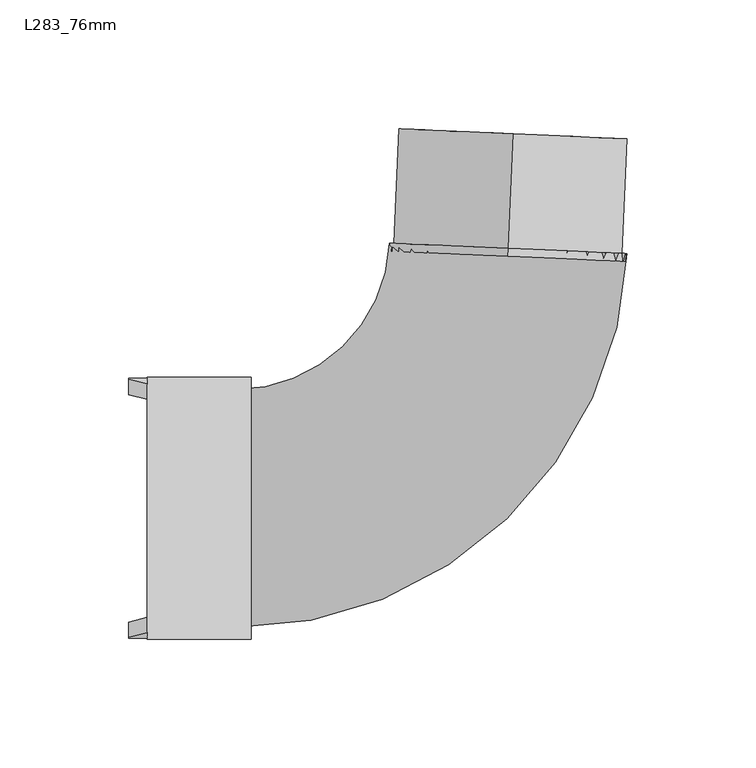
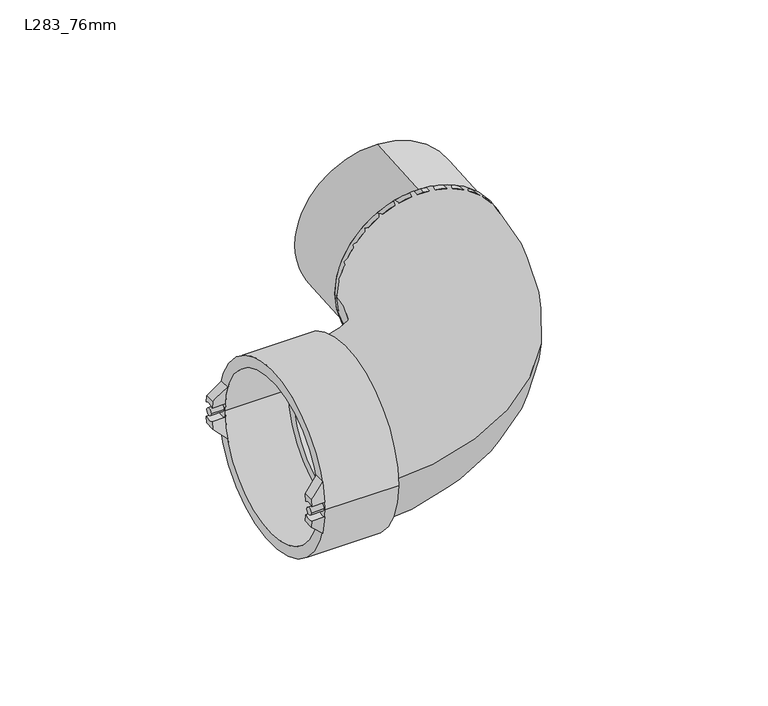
"""IFC4 building model written with IfcOpenShell, lengths in millimetres: pipe fitting geometry, Durapipe_PipeFitting_VulcatheneEnfusion_SingleSocketLongSweepBend_L28 : L283_76mm."""

from ifc_helpers import new_model, si_unit, point, frame, frame_2d, origin, place, context, project, spatial, polyline, circle_curve, ellipse_curve, trimmed, segment, composite_curve, outline, extrude, source, transform, mapped, element, save
from ifc_brep_helpers import plane_surface, cylinder_surface, revolved_surface, advanced_brep


def l283_76mm_a17f63d7(model_context):
    return source(origin(), model_context, "Body", "SolidModel", [
        advanced_brep(
        [(-142.9942788, 44.6762827, -3.9436356), (-142.9942788, 50.4762827, -4.1913461), (-142.9942788, 50.0237833, -7.94), (-142.9942788, 44.1415779, -7.94), (-135.8942788, 48.3779133, -15.0), (-135.8942788, 50.4762827, -4.1913461), (-135.8942788, 44.6762827, -3.9436356), (-135.8942788, 42.2672746, -15.0)],
        [
            (0, 1, circle_curve(frame((-142.9942788, 47.75, 0.0), z_axis=(1.0, 0.0, 0.0), x_axis=(0.0, -1.0, 0.0)), 5.0)),
            (1, 2, circle_curve(frame((-142.9942788, 0.0, 0.0), z_axis=(-1.0, 0.0, 0.0), x_axis=(0.0, -1.0, 0.0)), 50.65)),
            (2, 3),
            (3, 0, circle_curve(frame((-142.9942788, 0.0, 0.0), z_axis=(1.0, 0.0, 0.0), x_axis=(0.0, -1.0, 0.0)), 44.85)),
            (4, 5, circle_curve(frame((-135.8942788, 0.0, 0.0), z_axis=(1.0, 0.0, 0.0), x_axis=(0.0, -1.0, 0.0)), 50.65)),
            (5, 6, circle_curve(frame((-135.8942788, 47.75, 0.0), z_axis=(-1.0, 0.0, 0.0), x_axis=(0.0, -1.0, 0.0)), 5.0)),
            (6, 7, circle_curve(frame((-135.8942788, 0.0, 0.0), z_axis=(-1.0, 0.0, 0.0), x_axis=(0.0, -1.0, 0.0)), 44.85)),
            (7, 4),
            (6, 0),
            (3, 7, ellipse_curve(frame((-150.9792646, 0.0, 0.0), z_axis=(-0.7051064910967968, 0.0, -0.7091014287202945), x_axis=(0.7091014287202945, 0.0, -0.7051064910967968)), 63.6074133, 44.85)),
            (4, 2, ellipse_curve(frame((-150.9792646, 0.0, 0.0), z_axis=(0.7051064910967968, 0.0, 0.7091014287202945), x_axis=(-0.7091014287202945, 0.0, 0.7051064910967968)), 71.8331212, 50.65)),
            (1, 5),
        ],
        [
            plane_surface(frame((-142.9942788, 48.3779133, -15.0), z_axis=(-1.0, 0.0, 0.0), x_axis=(0.0, -1.0, 0.0))),
            plane_surface(frame((-135.8942788, 48.3779133, -15.0), z_axis=(1.0, 0.0, 0.0), x_axis=(0.0, 1.0, 0.0))),
            revolved_surface(polyline([(-105.87515695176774, -44.85, 0.0), (-196.08337224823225, -44.85, 0.0)]), (-135.8942788, 0.0, 0.0), (1.0, 0.0, 0.0)),
            cylinder_surface(frame((-135.8942788, 0.0, 0.0), z_axis=(-1.0, 0.0, 0.0), x_axis=(0.0, -1.0, 0.0)), 50.65),
            revolved_surface(polyline([(-142.9942788, 42.75, 0.0), (-135.8942788, 42.75, 0.0)]), (-135.8942788, 47.75, 0.0), (-1.0, 0.0, 0.0)),
            plane_surface(frame((-135.8942788, -104.876707, -15.0), z_axis=(-0.7051064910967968, 0.0, -0.7091014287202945), x_axis=(0.0, 1.0, 0.0))),
        ],
        [
            (0, [[1, 2, 3, 4]]),
            (1, [[5, 6, 7, 8]]),
            (2, [[-7, 9, -4, 10]]),
            (3, [[-5, 11, -2, 12]]),
            (4, [[-1, -9, -6, -12]]),
            (5, [[-3, -11, -8, -10]]),
        ],
    ),
        advanced_brep(
        [(-142.9942788, 50.4762827, 4.1913461), (-142.9942788, 44.6762827, 3.9436356), (-142.9942788, 44.1415779, 7.94), (-142.9942788, 50.0237833, 7.94), (-135.8942788, 50.4762827, 4.1913461), (-135.8942788, 48.3779133, 15.0), (-135.8942788, 42.2672746, 15.0), (-135.8942788, 44.6762827, 3.9436356)],
        [
            (0, 1, circle_curve(frame((-142.9942788, 47.75, 0.0), z_axis=(1.0, 0.0, 0.0), x_axis=(0.0, -1.0, 0.0)), 5.0)),
            (1, 2, circle_curve(frame((-142.9942788, 0.0, 0.0), z_axis=(1.0, 0.0, 0.0), x_axis=(0.0, -1.0, 0.0)), 44.85)),
            (2, 3),
            (3, 0, circle_curve(frame((-142.9942788, 0.0, 0.0), z_axis=(-1.0, 0.0, 0.0), x_axis=(0.0, -1.0, 0.0)), 50.65)),
            (4, 5, circle_curve(frame((-135.8942788, 0.0, 0.0), z_axis=(1.0, 0.0, 0.0), x_axis=(0.0, -1.0, 0.0)), 50.65)),
            (5, 6),
            (6, 7, circle_curve(frame((-135.8942788, 0.0, 0.0), z_axis=(-1.0, 0.0, 0.0), x_axis=(0.0, -1.0, 0.0)), 44.85)),
            (7, 4, circle_curve(frame((-135.8942788, 47.75, 0.0), z_axis=(-1.0, 0.0, 0.0), x_axis=(0.0, -1.0, 0.0)), 5.0)),
            (6, 2, ellipse_curve(frame((-150.9792646, 0.0, 0.0), z_axis=(-0.7051064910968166, 0.0, 0.7091014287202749), x_axis=(0.7091014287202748, 0.0, 0.7051064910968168)), 63.6074133, 44.85)),
            (1, 7),
            (4, 0),
            (3, 5, ellipse_curve(frame((-150.9792646, 0.0, 0.0), z_axis=(0.7051064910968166, 0.0, -0.7091014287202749), x_axis=(-0.7091014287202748, 0.0, -0.7051064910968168)), 71.8331212, 50.65)),
        ],
        [
            plane_surface(frame((-142.9942788, 48.3779133, -15.0), z_axis=(-1.0, 0.0, 0.0), x_axis=(0.0, -1.0, 0.0))),
            plane_surface(frame((-135.8942788, 48.3779133, -15.0), z_axis=(1.0, 0.0, 0.0), x_axis=(0.0, 1.0, 0.0))),
            revolved_surface(polyline([(-105.87515695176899, -44.85, 0.0), (-196.083372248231, -44.85, 0.0)]), (-135.8942788, 0.0, 0.0), (1.0, 0.0, 0.0)),
            cylinder_surface(frame((-135.8942788, 0.0, 0.0), z_axis=(-1.0, 0.0, 0.0), x_axis=(0.0, -1.0, 0.0)), 50.65),
            revolved_surface(polyline([(-142.9942788, 42.75, 0.0), (-135.8942788, 42.75, 0.0)]), (-135.8942788, 47.75, 0.0), (-1.0, 0.0, 0.0)),
            plane_surface(frame((-142.9942788, -104.876707, 7.94), z_axis=(-0.7051064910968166, 0.0, 0.7091014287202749), x_axis=(0.0, 1.0, 0.0))),
        ],
        [
            (0, [[1, 2, 3, 4]]),
            (1, [[5, 6, 7, 8]]),
            (2, [[-7, 9, -2, 10]]),
            (3, [[-5, 11, -4, 12]]),
            (4, [[-1, -11, -8, -10]]),
            (5, [[-3, -9, -6, -12]]),
        ],
    ),
        advanced_brep(
        [(-142.9942788, -50.4762827, -4.1913461), (-142.9942788, -44.6762827, -3.9436356), (-142.9942788, -44.1415779, -7.94), (-142.9942788, -50.0237833, -7.94), (-135.8942788, -50.4762827, -4.1913461), (-135.8942788, -48.3779133, -15.0), (-135.8942788, -42.2672746, -15.0), (-135.8942788, -44.6762827, -3.9436356)],
        [
            (0, 1, circle_curve(frame((-142.9942788, -47.75, 0.0), z_axis=(1.0, 0.0, 0.0), x_axis=(0.0, -1.0, 0.0)), 5.0)),
            (1, 2, circle_curve(frame((-142.9942788, 0.0, 0.0), z_axis=(1.0, 0.0, 0.0), x_axis=(0.0, -1.0, 0.0)), 44.85)),
            (2, 3),
            (3, 0, circle_curve(frame((-142.9942788, 0.0, 0.0), z_axis=(-1.0, 0.0, 0.0), x_axis=(0.0, -1.0, 0.0)), 50.65)),
            (4, 5, circle_curve(frame((-135.8942788, 0.0, 0.0), z_axis=(1.0, 0.0, 0.0), x_axis=(0.0, -1.0, 0.0)), 50.65)),
            (5, 6),
            (6, 7, circle_curve(frame((-135.8942788, 0.0, 0.0), z_axis=(-1.0, 0.0, 0.0), x_axis=(0.0, -1.0, 0.0)), 44.85)),
            (7, 4, circle_curve(frame((-135.8942788, -47.75, 0.0), z_axis=(-1.0, 0.0, 0.0), x_axis=(0.0, -1.0, 0.0)), 5.0)),
            (6, 2, ellipse_curve(frame((-150.9792646, 0.0, 0.0), z_axis=(-0.7051064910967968, 0.0, -0.7091014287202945), x_axis=(0.7091014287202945, 0.0, -0.7051064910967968)), 63.6074133, 44.85)),
            (1, 7),
            (4, 0),
            (3, 5, ellipse_curve(frame((-150.9792646, 0.0, 0.0), z_axis=(0.7051064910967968, 0.0, 0.7091014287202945), x_axis=(-0.7091014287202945, 0.0, 0.7051064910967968)), 71.8331212, 50.65)),
        ],
        [
            plane_surface(frame((-142.9942788, 48.3779133, -15.0), z_axis=(-1.0, 0.0, 0.0), x_axis=(0.0, -1.0, 0.0))),
            plane_surface(frame((-135.8942788, 48.3779133, -15.0), z_axis=(1.0, 0.0, 0.0), x_axis=(0.0, 1.0, 0.0))),
            revolved_surface(polyline([(-105.87515695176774, -44.85, 0.0), (-196.08337224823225, -44.85, 0.0)]), (-135.8942788, 0.0, 0.0), (1.0, 0.0, 0.0)),
            cylinder_surface(frame((-135.8942788, 0.0, 0.0), z_axis=(-1.0, 0.0, 0.0), x_axis=(0.0, -1.0, 0.0)), 50.65),
            revolved_surface(polyline([(-142.9942788, -52.75, 0.0), (-135.8942788, -52.75, 0.0)]), (-135.8942788, -47.75, 0.0), (-1.0, 0.0, 0.0)),
            plane_surface(frame((-135.8942788, -104.876707, -15.0), z_axis=(-0.7051064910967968, 0.0, -0.7091014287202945), x_axis=(0.0, 1.0, 0.0))),
        ],
        [
            (0, [[1, 2, 3, 4]]),
            (1, [[5, 6, 7, 8]]),
            (2, [[-7, 9, -2, 10]]),
            (3, [[-5, 11, -4, 12]]),
            (4, [[-1, -11, -8, -10]]),
            (5, [[-3, -9, -6, -12]]),
        ],
    ),
        advanced_brep(
        [(-142.9942788, -44.6762827, 3.9436356), (-142.9942788, -50.4762827, 4.1913461), (-142.9942788, -50.0237833, 7.94), (-142.9942788, -44.1415779, 7.94), (-135.8942788, -48.3779133, 15.0), (-135.8942788, -50.4762827, 4.1913461), (-135.8942788, -44.6762827, 3.9436356), (-135.8942788, -42.2672746, 15.0)],
        [
            (0, 1, circle_curve(frame((-142.9942788, -47.75, 0.0), z_axis=(1.0, 0.0, 0.0), x_axis=(0.0, -1.0, 0.0)), 5.0)),
            (1, 2, circle_curve(frame((-142.9942788, 0.0, 0.0), z_axis=(-1.0, 0.0, 0.0), x_axis=(0.0, -1.0, 0.0)), 50.65)),
            (2, 3),
            (3, 0, circle_curve(frame((-142.9942788, 0.0, 0.0), z_axis=(1.0, 0.0, 0.0), x_axis=(0.0, -1.0, 0.0)), 44.85)),
            (4, 5, circle_curve(frame((-135.8942788, 0.0, 0.0), z_axis=(1.0, 0.0, 0.0), x_axis=(0.0, -1.0, 0.0)), 50.65)),
            (5, 6, circle_curve(frame((-135.8942788, -47.75, 0.0), z_axis=(-1.0, 0.0, 0.0), x_axis=(0.0, -1.0, 0.0)), 5.0)),
            (6, 7, circle_curve(frame((-135.8942788, 0.0, 0.0), z_axis=(-1.0, 0.0, 0.0), x_axis=(0.0, -1.0, 0.0)), 44.85)),
            (7, 4),
            (6, 0),
            (3, 7, ellipse_curve(frame((-150.9792646, 0.0, 0.0), z_axis=(-0.7051064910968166, 0.0, 0.7091014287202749), x_axis=(0.7091014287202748, 0.0, 0.7051064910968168)), 63.6074133, 44.85)),
            (4, 2, ellipse_curve(frame((-150.9792646, 0.0, 0.0), z_axis=(0.7051064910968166, 0.0, -0.7091014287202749), x_axis=(-0.7091014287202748, 0.0, -0.7051064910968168)), 71.8331212, 50.65)),
            (1, 5),
        ],
        [
            plane_surface(frame((-142.9942788, 48.3779133, -15.0), z_axis=(-1.0, 0.0, 0.0), x_axis=(0.0, -1.0, 0.0))),
            plane_surface(frame((-135.8942788, 48.3779133, -15.0), z_axis=(1.0, 0.0, 0.0), x_axis=(0.0, 1.0, 0.0))),
            revolved_surface(polyline([(-105.87515695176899, -44.85, 0.0), (-196.083372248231, -44.85, 0.0)]), (-135.8942788, 0.0, 0.0), (1.0, 0.0, 0.0)),
            cylinder_surface(frame((-135.8942788, 0.0, 0.0), z_axis=(-1.0, 0.0, 0.0), x_axis=(0.0, -1.0, 0.0)), 50.65),
            revolved_surface(polyline([(-142.9942788, -52.75, 0.0), (-135.8942788, -52.75, 0.0)]), (-135.8942788, -47.75, 0.0), (-1.0, 0.0, 0.0)),
            plane_surface(frame((-142.9942788, -104.876707, 7.94), z_axis=(-0.7051064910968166, 0.0, 0.7091014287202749), x_axis=(0.0, 1.0, 0.0))),
        ],
        [
            (0, [[1, 2, 3, 4]]),
            (1, [[5, 6, 7, 8]]),
            (2, [[-7, 9, -4, 10]]),
            (3, [[-5, 11, -2, 12]]),
            (4, [[-1, -9, -6, -12]]),
            (5, [[-3, -11, -8, -10]]),
        ],
    ),
        extrude(outline(composite_curve([segment(trimmed(circle_curve(frame_2d((47.75, 0.0)), 2.0), [point((49.75, 0.0))], [point((45.75, 0.0))], False, "CARTESIAN"), True, "CONTINUOUS"), segment(trimmed(circle_curve(frame_2d((47.75, 0.0)), 2.0), [point((45.75, 0.0))], [point((49.75, 0.0))], False, "CARTESIAN"), True, "CONTINUOUS")], self_intersect=False)), frame((-142.9942788, 0.0, 0.0), z_axis=(1.0, 0.0, 0.0), x_axis=(0.0, 1.0, 0.0)), (0.0, 0.0, 1.0), 7.1),
        extrude(outline(composite_curve([segment(trimmed(circle_curve(frame_2d((-47.75, 0.0)), 2.0), [point((-45.75, 0.0))], [point((-49.75, 0.0))], False, "CARTESIAN"), True, "CONTINUOUS"), segment(trimmed(circle_curve(frame_2d((-47.75, 0.0)), 2.0), [point((-49.75, 0.0))], [point((-45.75, 0.0))], False, "CARTESIAN"), True, "CONTINUOUS")], self_intersect=False)), frame((-142.9942788, 0.0, 0.0), z_axis=(1.0, 0.0, 0.0), x_axis=(0.0, 1.0, 0.0)), (0.0, 0.0, 1.0), 7.1),
        advanced_brep(
        [(4.2700885, 97.8011051, -46.0), (4.2700885, 97.8011051, 46.0), (4.2700885, 97.8011051, 39.6), (4.2700885, 97.8011051, -39.6), (4.4053086, 100.8981546, -46.0), (4.4053086, 100.8981546, 46.0), (4.4053086, 100.8981546, -44.5), (4.4053086, 100.8981546, 44.5), (6.3463713, 145.3558005, -44.5), (6.3463713, 145.3558005, 44.5), (6.3463713, 145.3558005, -39.6), (6.3463713, 145.3558005, 39.6)],
        [
            (0, 1, circle_curve(frame((4.2700885, 97.8011051, 0.0), z_axis=(-0.04361938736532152, -0.9990482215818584, 0.0), x_axis=(0.0, 0.0, 1.0)), 46.0)),
            (1, 2),
            (2, 3, circle_curve(frame((4.2700885, 97.8011051, 0.0), z_axis=(0.04361938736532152, 0.9990482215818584, 0.0), x_axis=(0.0, 0.0, 1.0)), 39.6)),
            (3, 0),
            (1, 0, circle_curve(frame((4.2700885, 97.8011051, 0.0), z_axis=(-0.04361938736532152, -0.9990482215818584, 0.0), x_axis=(0.0, 0.0, 1.0)), 46.0)),
            (3, 2, circle_curve(frame((4.2700885, 97.8011051, 0.0), z_axis=(0.04361938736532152, 0.9990482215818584, 0.0), x_axis=(0.0, 0.0, 1.0)), 39.6)),
            (4, 5, circle_curve(frame((4.4053086, 100.8981546, 0.0), z_axis=(-0.04361938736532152, -0.9990482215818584, 0.0), x_axis=(0.0, 0.0, 1.0)), 46.0)),
            (5, 1),
            (0, 4),
            (5, 4, circle_curve(frame((4.4053086, 100.8981546, 0.0), z_axis=(-0.04361938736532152, -0.9990482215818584, 0.0), x_axis=(0.0, 0.0, 1.0)), 46.0)),
            (6, 7, circle_curve(frame((4.4053086, 100.8981546, 0.0), z_axis=(-0.04361938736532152, -0.9990482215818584, 0.0), x_axis=(0.0, 0.0, 1.0)), 44.5)),
            (7, 5),
            (4, 6),
            (7, 6, circle_curve(frame((4.4053086, 100.8981546, 0.0), z_axis=(-0.04361938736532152, -0.9990482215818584, 0.0), x_axis=(0.0, 0.0, 1.0)), 44.5)),
            (8, 9, circle_curve(frame((6.3463713, 145.3558005, 0.0), z_axis=(-0.04361938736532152, -0.9990482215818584, 0.0), x_axis=(0.0, 0.0, 1.0)), 44.5)),
            (9, 7),
            (6, 8),
            (9, 8, circle_curve(frame((6.3463713, 145.3558005, 0.0), z_axis=(-0.04361938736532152, -0.9990482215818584, 0.0), x_axis=(0.0, 0.0, 1.0)), 44.5)),
            (10, 11, circle_curve(frame((6.3463713, 145.3558005, 0.0), z_axis=(-0.04361938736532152, -0.9990482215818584, 0.0), x_axis=(0.0, 0.0, 1.0)), 39.6)),
            (11, 9),
            (8, 10),
            (11, 10, circle_curve(frame((6.3463713, 145.3558005, 0.0), z_axis=(-0.04361938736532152, -0.9990482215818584, 0.0), x_axis=(0.0, 0.0, 1.0)), 39.6)),
            (2, 11),
            (10, 3),
        ],
        [
            plane_surface(frame((4.2700885, 97.8011051, 0.0), z_axis=(-0.04361938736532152, -0.9990482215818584, 0.0), x_axis=(0.0, 0.0, 1.0))),
            cylinder_surface(frame((117.534724, 2691.9877632, 0.0), z_axis=(0.04361938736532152, 0.9990482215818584, 0.0), x_axis=(0.0, 0.0, 1.0)), 46.0),
            plane_surface(frame((4.4053086, 100.8981546, 0.0), z_axis=(0.04361938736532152, 0.9990482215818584, 0.0), x_axis=(0.0, 0.0, 1.0))),
            cylinder_surface(frame((117.534724, 2691.9877632, 0.0), z_axis=(0.04361938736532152, 0.9990482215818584, 0.0), x_axis=(0.0, 0.0, 1.0)), 44.5),
            plane_surface(frame((6.3463713, 145.3558005, 0.0), z_axis=(0.04361938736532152, 0.9990482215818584, 0.0), x_axis=(0.0, 0.0, 1.0))),
            revolved_surface(polyline([(6.346371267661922, 145.35580050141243, 39.6), (4.270088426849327, 97.801105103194, 39.6)]), (117.534724, 2691.9877632, 0.0), (0.04361938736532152, 0.9990482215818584, 0.0)),
        ],
        [
            (0, [[1, 2, 3, 4]]),
            (0, [[5, -4, 6, -2]]),
            (1, [[7, 8, -1, 9]]),
            (1, [[10, -9, -5, -8]]),
            (2, [[11, 12, -7, 13]]),
            (2, [[14, -13, -10, -12]]),
            (3, [[15, 16, -11, 17]]),
            (3, [[18, -17, -14, -16]]),
            (4, [[19, 20, -15, 21]]),
            (4, [[22, -21, -18, -20]]),
            (5, [[-3, 23, -19, 24]]),
            (5, [[-6, -24, -22, -23]]),
        ],
    ),
        advanced_brep(
        [(-95.3942788, 50.8, 0.0), (-95.3942788, -50.8, 0.0), (-135.8942788, -50.8, 0.0), (-135.8942788, 50.8, 0.0), (-95.3942788, 39.6, 0.0), (-95.3942788, -39.6, 0.0), (-100.9942788, 39.6, 0.0), (-100.9942788, -39.6, 0.0), (-100.9942788, 44.7, 0.0), (-100.9942788, -44.7, 0.0), (-135.8942788, 44.7, 0.0), (-135.8942788, -44.7, 0.0)],
        [
            (0, 1, circle_curve(frame((-95.3942788, 0.0, 0.0), z_axis=(-1.0, 0.0, 0.0), x_axis=(0.0, -1.0, 0.0)), 50.8)),
            (1, 2),
            (2, 3, circle_curve(frame((-135.8942788, 0.0, 0.0), z_axis=(1.0, 0.0, 0.0), x_axis=(0.0, -1.0, 0.0)), 50.8)),
            (3, 0),
            (1, 0, circle_curve(frame((-95.3942788, 0.0, 0.0), z_axis=(-1.0, 0.0, 0.0), x_axis=(0.0, -1.0, 0.0)), 50.8)),
            (3, 2, circle_curve(frame((-135.8942788, 0.0, 0.0), z_axis=(1.0, 0.0, 0.0), x_axis=(0.0, -1.0, 0.0)), 50.8)),
            (4, 5, circle_curve(frame((-95.3942788, 0.0, 0.0), z_axis=(-1.0, 0.0, 0.0), x_axis=(0.0, -1.0, 0.0)), 39.6)),
            (5, 1),
            (0, 4),
            (5, 4, circle_curve(frame((-95.3942788, 0.0, 0.0), z_axis=(-1.0, 0.0, 0.0), x_axis=(0.0, -1.0, 0.0)), 39.6)),
            (6, 7, circle_curve(frame((-100.9942788, 0.0, 0.0), z_axis=(-1.0, 0.0, 0.0), x_axis=(0.0, -1.0, 0.0)), 39.6)),
            (7, 5),
            (4, 6),
            (7, 6, circle_curve(frame((-100.9942788, 0.0, 0.0), z_axis=(-1.0, 0.0, 0.0), x_axis=(0.0, -1.0, 0.0)), 39.6)),
            (8, 9, circle_curve(frame((-100.9942788, 0.0, 0.0), z_axis=(-1.0, 0.0, 0.0), x_axis=(0.0, -1.0, 0.0)), 44.7)),
            (9, 7),
            (6, 8),
            (9, 8, circle_curve(frame((-100.9942788, 0.0, 0.0), z_axis=(-1.0, 0.0, 0.0), x_axis=(0.0, -1.0, 0.0)), 44.7)),
            (10, 11, circle_curve(frame((-135.8942788, 0.0, 0.0), z_axis=(-1.0, 0.0, 0.0), x_axis=(0.0, -1.0, 0.0)), 44.7)),
            (11, 9),
            (8, 10),
            (11, 10, circle_curve(frame((-135.8942788, 0.0, 0.0), z_axis=(-1.0, 0.0, 0.0), x_axis=(0.0, -1.0, 0.0)), 44.7)),
            (2, 11),
            (10, 3),
        ],
        [
            cylinder_surface(frame((1571.2518184, 0.0, 0.0), z_axis=(1.0, 0.0, 0.0), x_axis=(0.0, -1.0, 0.0)), 50.8),
            plane_surface(frame((-95.3942788, 0.0, 0.0), z_axis=(1.0, 0.0, 0.0), x_axis=(0.0, -1.0, 0.0))),
            revolved_surface(polyline([(-95.39427879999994, -39.6, 0.0), (-100.99427880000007, -39.6, 0.0)]), (1571.2518184, 0.0, 0.0), (1.0, 0.0, 0.0)),
            plane_surface(frame((-100.9942788, 0.0, 0.0), z_axis=(-1.0, 0.0, 0.0), x_axis=(0.0, -1.0, 0.0))),
            revolved_surface(polyline([(-100.99427880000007, -44.7, 0.0), (-135.89427879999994, -44.7, 0.0)]), (1571.2518184, 0.0, 0.0), (1.0, 0.0, 0.0)),
            plane_surface(frame((-135.8942788, 0.0, 0.0), z_axis=(-1.0, 0.0, 0.0), x_axis=(0.0, -1.0, 0.0))),
        ],
        [
            (0, [[1, 2, 3, 4]]),
            (0, [[5, -4, 6, -2]]),
            (1, [[7, 8, -1, 9]]),
            (1, [[10, -9, -5, -8]]),
            (2, [[11, 12, -7, 13]]),
            (2, [[14, -13, -10, -12]]),
            (3, [[15, 16, -11, 17]]),
            (3, [[18, -17, -14, -16]]),
            (4, [[19, 20, -15, 21]]),
            (4, [[22, -21, -18, -20]]),
            (5, [[-3, 23, -19, 24]]),
            (5, [[-6, -24, -22, -23]]),
        ],
    ),
        advanced_brep(
        [(-100.9942788, -46.2, 0.0), (-100.9942788, 46.2, 0.0), (-100.9942788, -39.6, 0.0), (-100.9942788, 39.6, 0.0), (50.5613364, 98.8829389, 0.0), (-41.7507193, 102.9133703, 0.0), (43.9676181, 99.1708269, 0.0), (-35.157001, 102.6254824, 0.0)],
        [
            (0, 1, circle_curve(frame((-100.9942788, 0.0, 0.0), z_axis=(-1.0, 0.0, 0.0), x_axis=(0.0, 1.0, 0.0)), 46.2)),
            (1, 0, circle_curve(frame((-100.9942788, 0.0, 0.0), z_axis=(-1.0, 0.0, 0.0), x_axis=(0.0, 1.0, 0.0)), 46.2)),
            (2, 3, circle_curve(frame((-100.9942788, 0.0, 0.0), z_axis=(1.0, 0.0, 0.0), x_axis=(0.0, 1.0, 0.0)), 39.6)),
            (3, 2, circle_curve(frame((-100.9942788, 0.0, 0.0), z_axis=(1.0, 0.0, 0.0), x_axis=(0.0, 1.0, 0.0)), 39.6)),
            (4, 5, circle_curve(frame((4.4053086, 100.8981546, 0.0), z_axis=(0.04361938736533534, 0.9990482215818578, 0.0), x_axis=(-0.9990482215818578, 0.04361938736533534, 0.0)), 46.2)),
            (5, 4, circle_curve(frame((4.4053086, 100.8981546, 0.0), z_axis=(0.04361938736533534, 0.9990482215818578, 0.0), x_axis=(-0.9990482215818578, 0.04361938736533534, 0.0)), 46.2)),
            (6, 7, circle_curve(frame((4.4053086, 100.8981546, 0.0), z_axis=(-0.04361938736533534, -0.9990482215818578, 0.0), x_axis=(-0.9990482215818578, 0.04361938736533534, 0.0)), 39.6)),
            (7, 6, circle_curve(frame((4.4053086, 100.8981546, 0.0), z_axis=(-0.04361938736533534, -0.9990482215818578, 0.0), x_axis=(-0.9990482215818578, 0.04361938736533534, 0.0)), 39.6)),
            (7, 3, circle_curve(frame((-100.9942788, 105.5, 0.0), z_axis=(0.0, 0.0, -1.0), x_axis=(0.0, -1.0, 0.0)), 65.9)),
            (2, 6, circle_curve(frame((-100.9942788, 105.5, 0.0), z_axis=(0.0, 0.0, 1.0), x_axis=(0.0, -1.0, 0.0)), 145.1)),
            (5, 1, circle_curve(frame((-100.9942788, 105.5, 0.0), z_axis=(0.0, 0.0, -1.0), x_axis=(0.0, -1.0, 0.0)), 59.3)),
            (0, 4, circle_curve(frame((-100.9942788, 105.5, 0.0), z_axis=(0.0, 0.0, 1.0), x_axis=(0.0, -1.0, 0.0)), 151.7)),
        ],
        [
            plane_surface(frame((-100.9942788, 0.0, 0.0), z_axis=(-1.0, 0.0, 0.0), x_axis=(0.0, 0.0, 1.0))),
            plane_surface(frame((4.4053086, 100.8981546, 0.0), z_axis=(0.043619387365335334, 0.9990482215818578, 0.0), x_axis=(0.0, 0.0, 1.0))),
            revolved_surface(trimmed(ellipse_curve(frame((-100.9942788, 0.0, 0.0), z_axis=(1.0, 0.0, 0.0), x_axis=(0.0, 1.0, 0.0)), 39.6, 39.6), [point((-100.9942788, -39.6, 0.0))], [point((-100.9942788, 39.6, 0.0))], True, "CARTESIAN"), (-100.9942788, 105.5, 0.0), (0.0, 0.0, 1.0)),
            revolved_surface(trimmed(ellipse_curve(frame((-100.9942788, 0.0, 0.0), z_axis=(1.0, 0.0, 0.0), x_axis=(0.0, 1.0, 0.0)), 39.6, 39.6), [point((-100.9942788, 39.6, 0.0))], [point((-100.9942788, -39.6, 0.0))], True, "CARTESIAN"), (-100.9942788, 105.5, 0.0), (0.0, 0.0, 1.0)),
            revolved_surface(trimmed(ellipse_curve(frame((-100.9942788, 0.0, 0.0), z_axis=(-1.0, 0.0, 0.0), x_axis=(0.0, 1.0, 0.0)), 46.2, 46.2), [point((-100.9942788, -46.2, 0.0))], [point((-100.9942788, 46.2, 0.0))], True, "CARTESIAN"), (-100.9942788, 105.5, 0.0), (0.0, 0.0, 1.0)),
            revolved_surface(trimmed(ellipse_curve(frame((-100.9942788, 0.0, 0.0), z_axis=(-1.0, 0.0, 0.0), x_axis=(0.0, 1.0, 0.0)), 46.2, 46.2), [point((-100.9942788, 46.2, 0.0))], [point((-100.9942788, -46.2, 0.0))], True, "CARTESIAN"), (-100.9942788, 105.5, 0.0), (0.0, 0.0, 1.0)),
        ],
        [
            (0, [[1, 2], [3, 4]]),
            (1, [[5, 6], [7, 8]]),
            (2, [[9, -3, 10, -8]]),
            (3, [[-10, -4, -9, -7]]),
            (4, [[11, -1, 12, -6]]),
            (5, [[-12, -2, -11, -5]]),
        ],
    ),
    ])


if __name__ == "__main__":
    model = new_model("IFC4")
    model_context = context("Model", 3, world=origin())
    ifc_project = project(units=[si_unit("LENGTHUNIT", "METRE", prefix="MILLI")], contexts=[model_context])
    site = spatial("IfcSite", under=ifc_project)
    building = spatial("IfcBuilding", under=site)
    placement = place(None, origin())
    l283_76mm_shape = l283_76mm_a17f63d7(model_context)
    element("IfcPipeFitting", 1, ObjectType="Durapipe_PipeFitting_VulcatheneEnfusion_SingleSocketLongSweepBend_L28 : L283_76mm", at=placement, inside=building, context=model_context, shape_type="MappedRepresentation", body=[
        mapped(l283_76mm_shape, transform((0.0, 0.0, 0.0), x_axis=(1.0, 0.0, 0.0), y_axis=(0.0, 1.0, 0.0), z_axis=(0.0, 0.0, 1.0))),
    ])
    save(model, "model.ifc")
